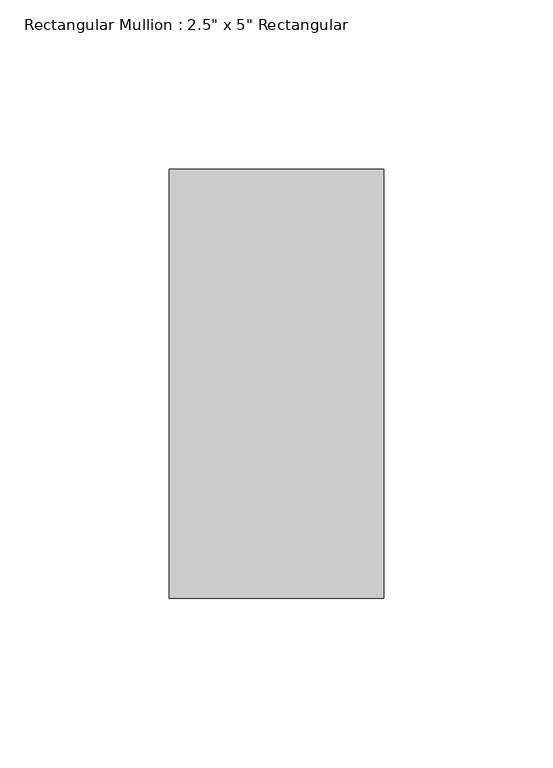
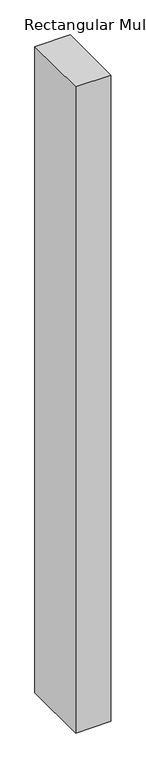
"""IFC4 building model written with IfcOpenShell, lengths in millimetres: member geometry."""

from ifc_helpers import new_model, si_unit, frame, origin, place, context, project, spatial, polyline, outline, extrude, source, transform, mapped, element, save


def member_5247cb20(model_context):
    return source(origin(), model_context, "Body", "SweptSolid", [
        extrude(outline(polyline([(0.0, 63.5), (0.0, -63.5), (-63.5, -63.5), (-63.5, 63.5), (0.0, 63.5)])), frame((0.0, 0.0, -1231.2), z_axis=(0.0, 0.0, 1.0), x_axis=(1.0, 0.0, 0.0)), (0.0, 0.0, 1.0), 1231.2),
    ])


if __name__ == "__main__":
    model = new_model("IFC4")
    model_context = context("Model", 3, world=origin())
    ifc_project = project(units=[si_unit("LENGTHUNIT", "METRE", prefix="MILLI")], contexts=[model_context])
    site = spatial("IfcSite", under=ifc_project)
    building = spatial("IfcBuilding", under=site)
    placement = place(None, origin())
    member_shape = member_5247cb20(model_context)
    element("IfcMember", 1, ObjectType="Rectangular Mullion : 2.5\" x 5\" Rectangular", at=placement, inside=building, context=model_context, shape_type="MappedRepresentation", body=[
        mapped(member_shape, transform((0.0, 0.0, 0.0), x_axis=(1.0, 0.0, 0.0), y_axis=(0.0, 1.0, 0.0), z_axis=(0.0, 0.0, 1.0))),
    ])
    save(model, "model.ifc")
